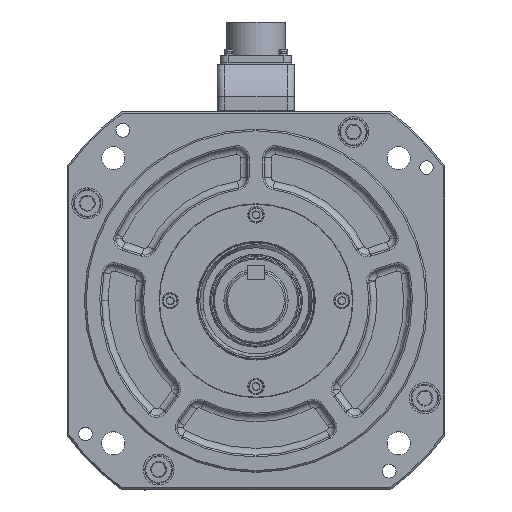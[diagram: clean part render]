
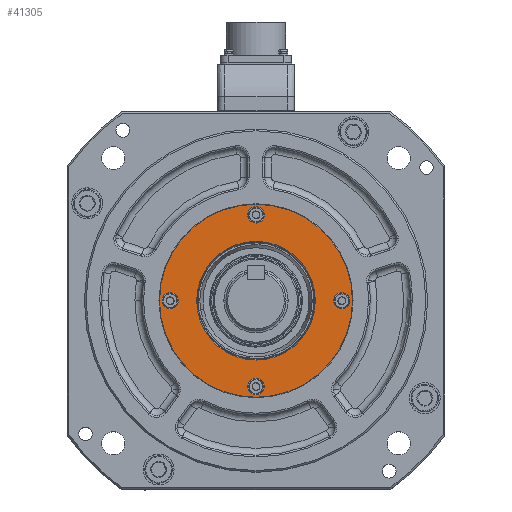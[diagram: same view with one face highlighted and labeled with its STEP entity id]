
A CAD part, top view. The second image highlights one B-rep face of the part: STEP entity #41305.
In plain terms, the highlighted planar face has unit normal (0, 0, 1).
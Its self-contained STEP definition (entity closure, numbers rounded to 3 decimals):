
#18444 = EDGE_LOOP ( 'NONE', ( #104906, #104893 ) ) ;
#18495 = EDGE_LOOP ( 'NONE', ( #104820, #104779 ) ) ;
#24457 = FACE_BOUND ( 'NONE', #18444, .T. ) ;
#24458 = FACE_BOUND ( 'NONE', #95162, .T. ) ;
#24474 = FACE_OUTER_BOUND ( 'NONE', #18495, .T. ) ;
#24481 = FACE_BOUND ( 'NONE', #95258, .T. ) ;
#24482 = FACE_BOUND ( 'NONE', #95110, .T. ) ;
#24485 = PLANE ( 'NONE',  #91493 ) ;
#24495 = FACE_BOUND ( 'NONE', #95206, .T. ) ;
#24503 = CARTESIAN_POINT ( 'NONE',  ( 0., 34.546, 24. ) ) ;
#24508 = DIRECTION ( 'NONE',  ( 0., 0., -1. ) ) ;
#24531 = DIRECTION ( 'NONE',  ( -1., 0., 0. ) ) ;
#35238 = CARTESIAN_POINT ( 'NONE',  ( 45.25, 0., 24. ) ) ;
#35667 = CARTESIAN_POINT ( 'NONE',  ( -45.25, 0., 24. ) ) ;
#35701 = CARTESIAN_POINT ( 'NONE',  ( -34.546, 0., 24. ) ) ;
#35726 = CARTESIAN_POINT ( 'NONE',  ( -4.75, -50., 24. ) ) ;
#35732 = CARTESIAN_POINT ( 'NONE',  ( 54.75, 0., 24. ) ) ;
#35775 = CARTESIAN_POINT ( 'NONE',  ( -54.75, 0., 24. ) ) ;
#36039 = CARTESIAN_POINT ( 'NONE',  ( -4.75, 50., 24. ) ) ;
#36077 = CARTESIAN_POINT ( 'NONE',  ( 4.75, 50., 24. ) ) ;
#36283 = CARTESIAN_POINT ( 'NONE',  ( 56.2, 0., 24. ) ) ;
#36564 = CARTESIAN_POINT ( 'NONE',  ( -56.2, 0., 24. ) ) ;
#36910 = CARTESIAN_POINT ( 'NONE',  ( 34.546, 0., 24. ) ) ;
#36928 = CARTESIAN_POINT ( 'NONE',  ( 4.75, -50., 24. ) ) ;
#41305 = ADVANCED_FACE ( 'NONE', ( #24457, #24481, #24482, #24458, #24495, #24474 ), #24485, .F. ) ;
#85918 = VERTEX_POINT ( 'NONE', #35238 ) ;
#85967 = VERTEX_POINT ( 'NONE', #35667 ) ;
#85979 = VERTEX_POINT ( 'NONE', #35701 ) ;
#85981 = VERTEX_POINT ( 'NONE', #35732 ) ;
#85984 = VERTEX_POINT ( 'NONE', #35726 ) ;
#85988 = VERTEX_POINT ( 'NONE', #35775 ) ;
#86026 = VERTEX_POINT ( 'NONE', #36039 ) ;
#86028 = VERTEX_POINT ( 'NONE', #36077 ) ;
#86052 = VERTEX_POINT ( 'NONE', #36283 ) ;
#86070 = VERTEX_POINT ( 'NONE', #36564 ) ;
#86124 = VERTEX_POINT ( 'NONE', #36928 ) ;
#86131 = VERTEX_POINT ( 'NONE', #36910 ) ;
#90870 = EDGE_CURVE ( 'NONE', #85988, #85967, #101565, .T. ) ;
#90871 = EDGE_CURVE ( 'NONE', #85979, #86131, #101678, .T. ) ;
#90878 = EDGE_CURVE ( 'NONE', #85918, #85981, #101836, .T. ) ;
#90880 = EDGE_CURVE ( 'NONE', #86028, #86026, #101705, .T. ) ;
#90882 = EDGE_CURVE ( 'NONE', #86026, #86028, #101712, .T. ) ;
#90911 = EDGE_CURVE ( 'NONE', #86070, #86052, #101806, .T. ) ;
#90912 = EDGE_CURVE ( 'NONE', #85967, #85988, #101844, .T. ) ;
#90940 = EDGE_CURVE ( 'NONE', #86052, #86070, #101865, .T. ) ;
#90942 = EDGE_CURVE ( 'NONE', #85984, #86124, #101947, .T. ) ;
#90991 = EDGE_CURVE ( 'NONE', #86124, #85984, #101875, .T. ) ;
#91034 = EDGE_CURVE ( 'NONE', #86131, #85979, #102159, .T. ) ;
#91041 = EDGE_CURVE ( 'NONE', #85981, #85918, #102161, .T. ) ;
#91493 = AXIS2_PLACEMENT_3D ( 'NONE', #24503, #24508, #24531 ) ;
#95110 = EDGE_LOOP ( 'NONE', ( #104887, #104741 ) ) ;
#95162 = EDGE_LOOP ( 'NONE', ( #104863, #104847 ) ) ;
#95206 = EDGE_LOOP ( 'NONE', ( #104917, #104909 ) ) ;
#95258 = EDGE_LOOP ( 'NONE', ( #104738, #104826 ) ) ;
#101565 = CIRCLE ( 'NONE', #101674, 4.75 ) ;
#101674 = AXIS2_PLACEMENT_3D ( 'NONE', #103770, #103765, #103771 ) ;
#101678 = CIRCLE ( 'NONE', #101846, 34.546 ) ;
#101705 = CIRCLE ( 'NONE', #101804, 4.75 ) ;
#101707 = AXIS2_PLACEMENT_3D ( 'NONE', #103815, #103786, #103818 ) ;
#101712 = CIRCLE ( 'NONE', #101769, 4.75 ) ;
#101769 = AXIS2_PLACEMENT_3D ( 'NONE', #103748, #103779, #103777 ) ;
#101804 = AXIS2_PLACEMENT_3D ( 'NONE', #103750, #103767, #103760 ) ;
#101806 = CIRCLE ( 'NONE', #101707, 56.2 ) ;
#101820 = AXIS2_PLACEMENT_3D ( 'NONE', #103761, #103775, #103741 ) ;
#101836 = CIRCLE ( 'NONE', #101820, 4.75 ) ;
#101844 = CIRCLE ( 'NONE', #101849, 4.75 ) ;
#101846 = AXIS2_PLACEMENT_3D ( 'NONE', #103755, #103776, #103757 ) ;
#101849 = AXIS2_PLACEMENT_3D ( 'NONE', #103787, #103800, #103802 ) ;
#101865 = CIRCLE ( 'NONE', #101922, 56.2 ) ;
#101875 = CIRCLE ( 'NONE', #101878, 4.75 ) ;
#101878 = AXIS2_PLACEMENT_3D ( 'NONE', #103970, #103990, #103986 ) ;
#101922 = AXIS2_PLACEMENT_3D ( 'NONE', #103903, #103900, #103884 ) ;
#101947 = CIRCLE ( 'NONE', #101949, 4.75 ) ;
#101949 = AXIS2_PLACEMENT_3D ( 'NONE', #103875, #103901, #103904 ) ;
#102079 = AXIS2_PLACEMENT_3D ( 'NONE', #104077, #104019, #104026 ) ;
#102129 = AXIS2_PLACEMENT_3D ( 'NONE', #104148, #104104, #104106 ) ;
#102159 = CIRCLE ( 'NONE', #102079, 34.546 ) ;
#102161 = CIRCLE ( 'NONE', #102129, 4.75 ) ;
#103741 = DIRECTION ( 'NONE',  ( 1., 0., 0. ) ) ;
#103748 = CARTESIAN_POINT ( 'NONE',  ( 0., 50., 24. ) ) ;
#103750 = CARTESIAN_POINT ( 'NONE',  ( 0., 50., 24. ) ) ;
#103755 = CARTESIAN_POINT ( 'NONE',  ( 0., 0., 24. ) ) ;
#103757 = DIRECTION ( 'NONE',  ( 1., 0., 0. ) ) ;
#103760 = DIRECTION ( 'NONE',  ( 1., 0., 0. ) ) ;
#103761 = CARTESIAN_POINT ( 'NONE',  ( 50., 0., 24. ) ) ;
#103765 = DIRECTION ( 'NONE',  ( 0., 0., 1. ) ) ;
#103767 = DIRECTION ( 'NONE',  ( 0., 0., 1. ) ) ;
#103770 = CARTESIAN_POINT ( 'NONE',  ( -50., 0., 24. ) ) ;
#103771 = DIRECTION ( 'NONE',  ( 1., 0., 0. ) ) ;
#103775 = DIRECTION ( 'NONE',  ( 0., 0., 1. ) ) ;
#103776 = DIRECTION ( 'NONE',  ( 0., 0., 1. ) ) ;
#103777 = DIRECTION ( 'NONE',  ( 1., 0., 0. ) ) ;
#103779 = DIRECTION ( 'NONE',  ( 0., 0., 1. ) ) ;
#103786 = DIRECTION ( 'NONE',  ( 0., 0., 1. ) ) ;
#103787 = CARTESIAN_POINT ( 'NONE',  ( -50., 0., 24. ) ) ;
#103800 = DIRECTION ( 'NONE',  ( 0., 0., 1. ) ) ;
#103802 = DIRECTION ( 'NONE',  ( 1., 0., 0. ) ) ;
#103815 = CARTESIAN_POINT ( 'NONE',  ( 0., 0., 24. ) ) ;
#103818 = DIRECTION ( 'NONE',  ( 1., 0., 0. ) ) ;
#103875 = CARTESIAN_POINT ( 'NONE',  ( 0., -50., 24. ) ) ;
#103884 = DIRECTION ( 'NONE',  ( 1., 0., 0. ) ) ;
#103900 = DIRECTION ( 'NONE',  ( 0., 0., 1. ) ) ;
#103901 = DIRECTION ( 'NONE',  ( 0., 0., 1. ) ) ;
#103903 = CARTESIAN_POINT ( 'NONE',  ( 0., 0., 24. ) ) ;
#103904 = DIRECTION ( 'NONE',  ( 1., 0., 0. ) ) ;
#103970 = CARTESIAN_POINT ( 'NONE',  ( 0., -50., 24. ) ) ;
#103986 = DIRECTION ( 'NONE',  ( 1., 0., 0. ) ) ;
#103990 = DIRECTION ( 'NONE',  ( 0., 0., 1. ) ) ;
#104019 = DIRECTION ( 'NONE',  ( 0., 0., 1. ) ) ;
#104026 = DIRECTION ( 'NONE',  ( 1., 0., 0. ) ) ;
#104077 = CARTESIAN_POINT ( 'NONE',  ( 0., 0., 24. ) ) ;
#104104 = DIRECTION ( 'NONE',  ( 0., 0., 1. ) ) ;
#104106 = DIRECTION ( 'NONE',  ( 1., 0., 0. ) ) ;
#104148 = CARTESIAN_POINT ( 'NONE',  ( 50., 0., 24. ) ) ;
#104738 = ORIENTED_EDGE ( 'NONE', *, *, #91041, .F. ) ;
#104741 = ORIENTED_EDGE ( 'NONE', *, *, #90870, .F. ) ;
#104779 = ORIENTED_EDGE ( 'NONE', *, *, #90940, .T. ) ;
#104820 = ORIENTED_EDGE ( 'NONE', *, *, #90911, .T. ) ;
#104826 = ORIENTED_EDGE ( 'NONE', *, *, #90878, .F. ) ;
#104847 = ORIENTED_EDGE ( 'NONE', *, *, #90882, .F. ) ;
#104863 = ORIENTED_EDGE ( 'NONE', *, *, #90880, .F. ) ;
#104887 = ORIENTED_EDGE ( 'NONE', *, *, #90912, .F. ) ;
#104893 = ORIENTED_EDGE ( 'NONE', *, *, #90942, .F. ) ;
#104906 = ORIENTED_EDGE ( 'NONE', *, *, #90991, .F. ) ;
#104909 = ORIENTED_EDGE ( 'NONE', *, *, #90871, .F. ) ;
#104917 = ORIENTED_EDGE ( 'NONE', *, *, #91034, .F. ) ;
